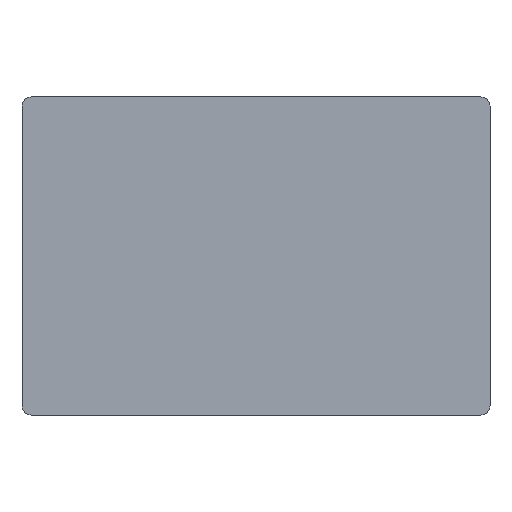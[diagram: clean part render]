
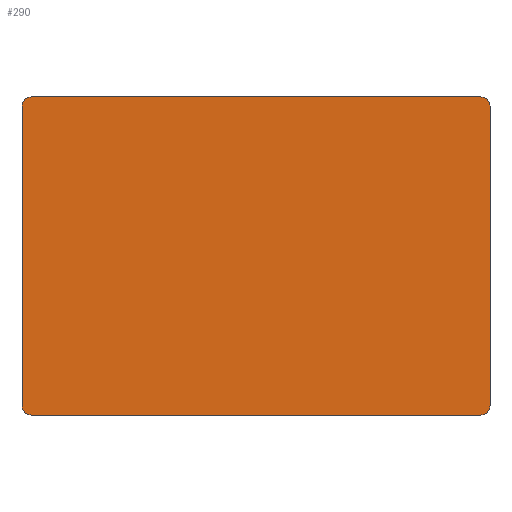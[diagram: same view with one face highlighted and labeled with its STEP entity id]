
A CAD part, top view. The second image highlights one B-rep face of the part: STEP entity #290.
In plain terms, the highlighted planar face has unit normal (0, 0, 1).
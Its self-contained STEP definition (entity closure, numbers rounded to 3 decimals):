
#19=DIRECTION('',(-0.981,0.195,0.0));
#28=DIRECTION('',(-0.831,0.556,0.0));
#35=DIRECTION('',(-0.556,0.831,0.0));
#42=DIRECTION('',(-0.195,0.981,0.0));
#49=DIRECTION('',(0.0,1.0,0.0));
#56=DIRECTION('',(0.195,0.981,0.0));
#63=DIRECTION('',(0.556,0.831,0.0));
#70=DIRECTION('',(0.831,0.556,0.0));
#77=DIRECTION('',(0.981,0.195,0.0));
#84=DIRECTION('',(1.0,0.0,0.0));
#91=DIRECTION('',(0.981,-0.195,0.0));
#98=DIRECTION('',(0.831,-0.556,0.0));
#105=DIRECTION('',(0.556,-0.831,0.0));
#112=DIRECTION('',(0.195,-0.981,0.0));
#119=DIRECTION('',(0.0,-1.0,0.0));
#126=DIRECTION('',(-0.195,-0.981,0.0));
#133=DIRECTION('',(-0.556,-0.831,0.0));
#140=DIRECTION('',(-0.831,-0.556,0.0));
#147=DIRECTION('',(-0.981,-0.195,0.0));
#164=VECTOR('',#77,0.39);
#165=CARTESIAN_POINT('',(24.0,-17.0,7.7));
#166=LINE('',#165,#164);
#167=VERTEX_POINT('',#165);
#168=CARTESIAN_POINT('',(24.383,-16.924,7.7));
#169=VERTEX_POINT('',#168);
#170=EDGE_CURVE('',#167,#169,#166,.T.);
#171=ORIENTED_EDGE('',*,*,#170,.T.);
#172=VECTOR('',#70,0.39);
#173=LINE('',#168,#172);
#174=CARTESIAN_POINT('',(24.707,-16.707,7.7));
#175=VERTEX_POINT('',#174);
#176=EDGE_CURVE('',#169,#175,#173,.T.);
#177=ORIENTED_EDGE('',*,*,#176,.T.);
#178=VECTOR('',#63,0.39);
#179=LINE('',#174,#178);
#180=CARTESIAN_POINT('',(24.924,-16.383,7.7));
#181=VERTEX_POINT('',#180);
#182=EDGE_CURVE('',#175,#181,#179,.T.);
#183=ORIENTED_EDGE('',*,*,#182,.T.);
#184=VECTOR('',#56,0.39);
#185=LINE('',#180,#184);
#186=CARTESIAN_POINT('',(25.0,-16.0,7.7));
#187=VERTEX_POINT('',#186);
#188=EDGE_CURVE('',#181,#187,#185,.T.);
#189=ORIENTED_EDGE('',*,*,#188,.T.);
#190=VECTOR('',#49,32.0);
#191=LINE('',#186,#190);
#192=CARTESIAN_POINT('',(25.0,16.0,7.7));
#193=VERTEX_POINT('',#192);
#194=EDGE_CURVE('',#187,#193,#191,.T.);
#195=ORIENTED_EDGE('',*,*,#194,.T.);
#196=VECTOR('',#42,0.39);
#197=LINE('',#192,#196);
#198=CARTESIAN_POINT('',(24.924,16.383,7.7));
#199=VERTEX_POINT('',#198);
#200=EDGE_CURVE('',#193,#199,#197,.T.);
#201=ORIENTED_EDGE('',*,*,#200,.T.);
#202=VECTOR('',#35,0.39);
#203=LINE('',#198,#202);
#204=CARTESIAN_POINT('',(24.707,16.707,7.7));
#205=VERTEX_POINT('',#204);
#206=EDGE_CURVE('',#199,#205,#203,.T.);
#207=ORIENTED_EDGE('',*,*,#206,.T.);
#208=VECTOR('',#28,0.39);
#209=LINE('',#204,#208);
#210=CARTESIAN_POINT('',(24.383,16.924,7.7));
#211=VERTEX_POINT('',#210);
#212=EDGE_CURVE('',#205,#211,#209,.T.);
#213=ORIENTED_EDGE('',*,*,#212,.T.);
#214=VECTOR('',#19,0.39);
#215=LINE('',#210,#214);
#216=CARTESIAN_POINT('',(24.0,17.0,7.7));
#217=VERTEX_POINT('',#216);
#218=EDGE_CURVE('',#211,#217,#215,.T.);
#219=ORIENTED_EDGE('',*,*,#218,.T.);
#220=DIRECTION('',(-1.0,0.0,0.0));
#221=VECTOR('',#220,48.0);
#222=LINE('',#216,#221);
#223=CARTESIAN_POINT('',(-24.0,17.0,7.7));
#224=VERTEX_POINT('',#223);
#225=EDGE_CURVE('',#217,#224,#222,.T.);
#226=ORIENTED_EDGE('',*,*,#225,.T.);
#227=VECTOR('',#147,0.39);
#228=LINE('',#223,#227);
#229=CARTESIAN_POINT('',(-24.383,16.924,7.7));
#230=VERTEX_POINT('',#229);
#231=EDGE_CURVE('',#224,#230,#228,.T.);
#232=ORIENTED_EDGE('',*,*,#231,.T.);
#233=VECTOR('',#140,0.39);
#234=LINE('',#229,#233);
#235=CARTESIAN_POINT('',(-24.707,16.707,7.7));
#236=VERTEX_POINT('',#235);
#237=EDGE_CURVE('',#230,#236,#234,.T.);
#238=ORIENTED_EDGE('',*,*,#237,.T.);
#239=VECTOR('',#133,0.39);
#240=LINE('',#235,#239);
#241=CARTESIAN_POINT('',(-24.924,16.383,7.7));
#242=VERTEX_POINT('',#241);
#243=EDGE_CURVE('',#236,#242,#240,.T.);
#244=ORIENTED_EDGE('',*,*,#243,.T.);
#245=VECTOR('',#126,0.39);
#246=LINE('',#241,#245);
#247=CARTESIAN_POINT('',(-25.0,16.0,7.7));
#248=VERTEX_POINT('',#247);
#249=EDGE_CURVE('',#242,#248,#246,.T.);
#250=ORIENTED_EDGE('',*,*,#249,.T.);
#251=VECTOR('',#119,32.0);
#252=LINE('',#247,#251);
#253=CARTESIAN_POINT('',(-25.0,-16.0,7.7));
#254=VERTEX_POINT('',#253);
#255=EDGE_CURVE('',#248,#254,#252,.T.);
#256=ORIENTED_EDGE('',*,*,#255,.T.);
#257=VECTOR('',#112,0.39);
#258=LINE('',#253,#257);
#259=CARTESIAN_POINT('',(-24.924,-16.383,7.7));
#260=VERTEX_POINT('',#259);
#261=EDGE_CURVE('',#254,#260,#258,.T.);
#262=ORIENTED_EDGE('',*,*,#261,.T.);
#263=VECTOR('',#105,0.39);
#264=LINE('',#259,#263);
#265=CARTESIAN_POINT('',(-24.707,-16.707,7.7));
#266=VERTEX_POINT('',#265);
#267=EDGE_CURVE('',#260,#266,#264,.T.);
#268=ORIENTED_EDGE('',*,*,#267,.T.);
#269=VECTOR('',#98,0.39);
#270=LINE('',#265,#269);
#271=CARTESIAN_POINT('',(-24.383,-16.924,7.7));
#272=VERTEX_POINT('',#271);
#273=EDGE_CURVE('',#266,#272,#270,.T.);
#274=ORIENTED_EDGE('',*,*,#273,.T.);
#275=VECTOR('',#91,0.39);
#276=LINE('',#271,#275);
#277=CARTESIAN_POINT('',(-24.0,-17.0,7.7));
#278=VERTEX_POINT('',#277);
#279=EDGE_CURVE('',#272,#278,#276,.T.);
#280=ORIENTED_EDGE('',*,*,#279,.T.);
#281=VECTOR('',#220,48.0);
#282=LINE('',#165,#281);
#283=EDGE_CURVE('',#167,#278,#282,.T.);
#284=ORIENTED_EDGE('',*,*,#283,.F.);
#285=EDGE_LOOP('',(#171,#177,#183,#189,#195,#201,#207,#213,#219,#226,#232,#238,#244,#250,#256,#262,#268,#274,#280,#284));
#286=FACE_OUTER_BOUND('',#285,.T.);
#287=DIRECTION('',(0.0,0.0,1.0));
#288=AXIS2_PLACEMENT_3D('',#165,#287,#84);
#289=PLANE('',#288);
#290=ADVANCED_FACE('',(#286),#289,.T.);
